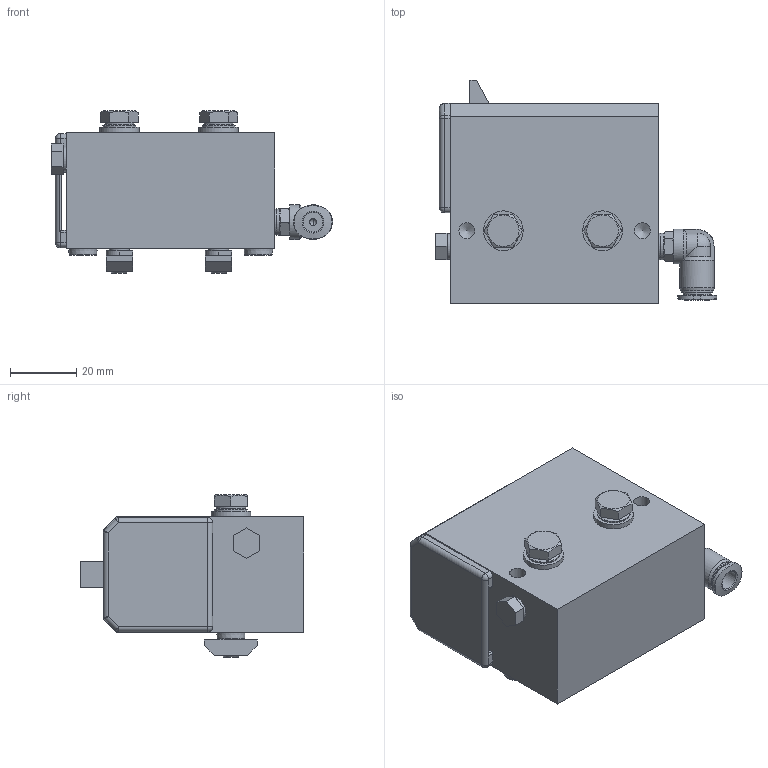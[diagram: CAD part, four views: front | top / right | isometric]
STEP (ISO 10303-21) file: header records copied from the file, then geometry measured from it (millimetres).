
FILE_DESCRIPTION (( 'STEP AP203' ), '1' );
FILE_NAME ('ASM-15-EW-07-100.STEP', '2017-02-07T10:56:16', ( '' ), ( '' ), 'SwSTEP 2.0', 'SolidWorks 2015', '' );
FILE_SCHEMA (( 'CONFIG_CONTROL_DESIGN' ));
Length unit declared in the file: metre
Products named in the file (1): ASM-15-EW-07-100
Bounding box: 84.9 x 67.5 x 49 mm (x, y, z)
Volume: 124436.2 mm3; surface area: 36684.5 mm2
Topology: 7 solids, 9 shells, 642 faces, 1665 edges, 1086 vertices
Faces by surface type: plane 318, cylinder 211, bspline 52, cone 39, sphere 16, torus 6
Full cylindrical faces by diameter (mm): 0.1 x4, 2.1 x2, 4.2 x2, 4.8 x4, 5 x1, 5.3 x1, 5.5 x1, 6 x3, 6.1 x2, 6.2 x2, 6.4 x2, 7.8 x1, 8 x3, 8.2 x1, 8.4 x1, 8.9 x2, 9.45 x1, 10 x2, 10.5 x2, 12 x2, 15 x1, 22.5 x1
Entity records: 22845 total; most frequent: CARTESIAN_POINT 7695, ORIENTED_EDGE 3112, DIRECTION 2993, EDGE_CURVE 1556, VERTEX_POINT 1055, AXIS2_PLACEMENT_3D 1044, VECTOR 905, LINE 905
